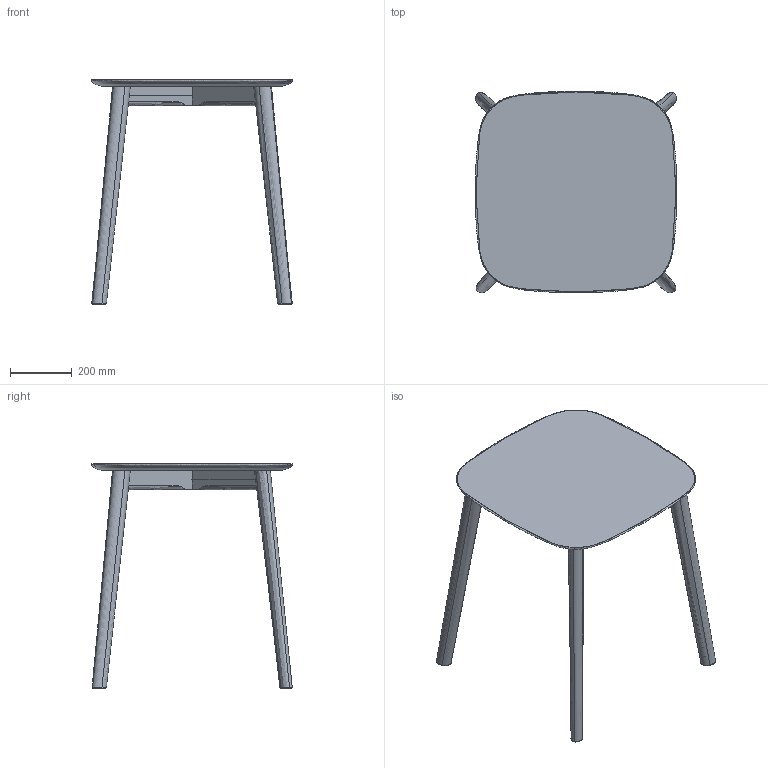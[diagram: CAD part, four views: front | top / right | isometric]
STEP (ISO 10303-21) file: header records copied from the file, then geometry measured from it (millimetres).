
FILE_DESCRIPTION(/* description */ (''),/* implementation_level */ '2;1');
FILE_NAME(/* name */ 'MC3_OS~3',/* time_stamp */ '2021-04-10T10:30:11+02:00',/* author */ (''),/* organization */ (''),/* preprocessor_version */ 'ST-DEVELOPER v16.5',/* originating_system */ '',/* authorisation */ '');
FILE_SCHEMA (('AUTOMOTIVE_DESIGN'));
Length unit declared in the file: millimetre
Products named in the file (1): Document
Bounding box: 654 x 653.99 x 728 mm (x, y, z)
Surface area: 1434801.9 mm2 (no closed solid volume)
Topology: 0 solids, 80 shells, 80 faces, 369 edges, 371 vertices
Faces by surface type: bspline 80
Entity records: 22303 total; most frequent: CARTESIAN_POINT 18920, B_SPLINE_CURVE_WITH_KNOTS 623, ORIENTED_EDGE 367, PCURVE 367, DEFINITIONAL_REPRESENTATION 367, SURFACE_CURVE 366, EDGE_CURVE 366, VERTEX_POINT 365
